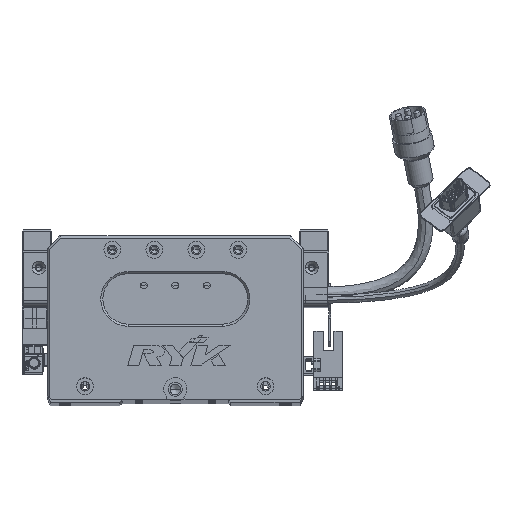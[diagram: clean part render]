
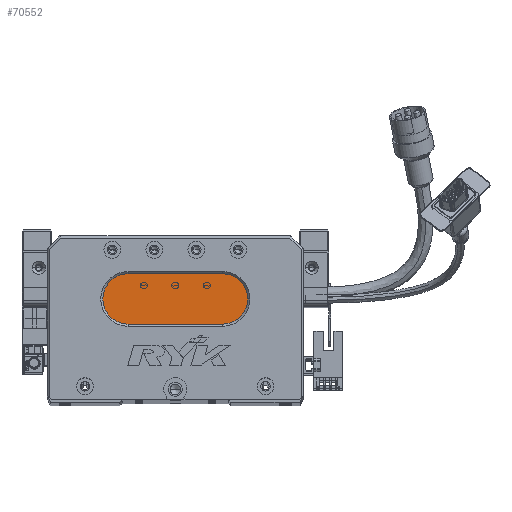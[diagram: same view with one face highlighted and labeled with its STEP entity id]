
A CAD part, top view. The second image highlights one B-rep face of the part: STEP entity #70552.
In plain terms, the highlighted planar face has unit normal (0, 0, 1) as drawn and (0, 0, -1) by its records, which use the part's own axes.
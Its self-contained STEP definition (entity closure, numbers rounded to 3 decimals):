
#2673 = EDGE_CURVE ( 'NONE', #53810, #14459, #70891, .T. ) ;
#2874 = EDGE_CURVE ( 'NONE', #14459, #50661, #5037, .T. ) ;
#5037 = CIRCLE ( 'NONE', #49193, 12. ) ;
#6093 = CARTESIAN_POINT ( 'NONE',  ( 83.5, 36., 13. ) ) ;
#8766 = LINE ( 'NONE', #14356, #78920 ) ;
#10426 = CARTESIAN_POINT ( 'NONE',  ( 83.5, 60., 13. ) ) ;
#11308 = CARTESIAN_POINT ( 'NONE',  ( 83.5, 48., 13. ) ) ;
#11609 = DIRECTION ( 'NONE',  ( 0., 0., -1. ) ) ;
#14356 = CARTESIAN_POINT ( 'NONE',  ( 83.5, 60., 13. ) ) ;
#14459 = VERTEX_POINT ( 'NONE', #38384 ) ;
#15222 = DIRECTION ( 'NONE',  ( -1., 0., 0. ) ) ;
#18102 = CARTESIAN_POINT ( 'NONE',  ( 83.5, 48., 13. ) ) ;
#18282 = CARTESIAN_POINT ( 'NONE',  ( 26.5, 48., 13. ) ) ;
#24116 = VECTOR ( 'NONE', #72625, 1000. ) ;
#24300 = CARTESIAN_POINT ( 'NONE',  ( 38.5, 60., 13. ) ) ;
#28856 = DIRECTION ( 'NONE',  ( 0., 0., -1. ) ) ;
#28929 = DIRECTION ( 'NONE',  ( 0., 0., -1. ) ) ;
#37316 = ORIENTED_EDGE ( 'NONE', *, *, #2874, .T. ) ;
#37829 = ORIENTED_EDGE ( 'NONE', *, *, #2673, .T. ) ;
#38384 = CARTESIAN_POINT ( 'NONE',  ( 38.5, 36., 13. ) ) ;
#41861 = VERTEX_POINT ( 'NONE', #24300 ) ;
#41972 = DIRECTION ( 'NONE',  ( 1., 0., 0. ) ) ;
#44340 = ORIENTED_EDGE ( 'NONE', *, *, #65348, .T. ) ;
#45830 = AXIS2_PLACEMENT_3D ( 'NONE', #18102, #11609, #65615 ) ;
#46882 = AXIS2_PLACEMENT_3D ( 'NONE', #11308, #79043, #59397 ) ;
#48342 = AXIS2_PLACEMENT_3D ( 'NONE', #55871, #28856, #15222 ) ;
#49193 = AXIS2_PLACEMENT_3D ( 'NONE', #55942, #28929, #83639 ) ;
#50661 = VERTEX_POINT ( 'NONE', #18282 ) ;
#53810 = VERTEX_POINT ( 'NONE', #6093 ) ;
#55871 = CARTESIAN_POINT ( 'NONE',  ( 38.5, 48., 13. ) ) ;
#55942 = CARTESIAN_POINT ( 'NONE',  ( 38.5, 48., 13. ) ) ;
#59397 = DIRECTION ( 'NONE',  ( -1., 0., 0. ) ) ;
#65116 = ORIENTED_EDGE ( 'NONE', *, *, #80217, .T. ) ;
#65348 = EDGE_CURVE ( 'NONE', #50661, #41861, #72662, .T. ) ;
#65615 = DIRECTION ( 'NONE',  ( -1., 0., 0. ) ) ;
#66967 = CARTESIAN_POINT ( 'NONE',  ( 83.5, 36., 13. ) ) ;
#69907 = VERTEX_POINT ( 'NONE', #10426 ) ;
#70552 = ADVANCED_FACE ( 'NONE', ( #85927 ), #79354, .T. ) ;
#70891 = LINE ( 'NONE', #66967, #24116 ) ;
#72533 = EDGE_CURVE ( 'NONE', #69907, #53810, #81506, .T. ) ;
#72625 = DIRECTION ( 'NONE',  ( -1., 0., 0. ) ) ;
#72662 = CIRCLE ( 'NONE', #48342, 12. ) ;
#74750 = EDGE_LOOP ( 'NONE', ( #77408, #37829, #37316, #44340, #65116 ) ) ;
#77408 = ORIENTED_EDGE ( 'NONE', *, *, #72533, .T. ) ;
#78920 = VECTOR ( 'NONE', #41972, 1000. ) ;
#79043 = DIRECTION ( 'NONE',  ( 0., 0., -1. ) ) ;
#79354 = PLANE ( 'NONE',  #46882 ) ;
#80217 = EDGE_CURVE ( 'NONE', #41861, #69907, #8766, .T. ) ;
#81506 = CIRCLE ( 'NONE', #45830, 12. ) ;
#83639 = DIRECTION ( 'NONE',  ( -1., 0., 0. ) ) ;
#85927 = FACE_OUTER_BOUND ( 'NONE', #74750, .T. ) ;
